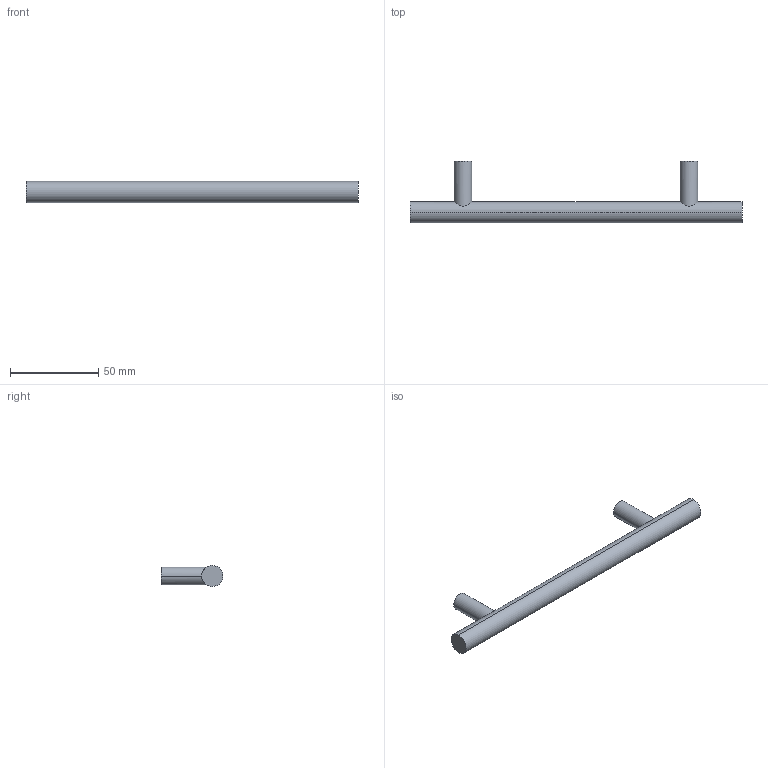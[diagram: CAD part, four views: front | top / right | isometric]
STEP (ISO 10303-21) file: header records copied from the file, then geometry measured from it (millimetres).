
FILE_DESCRIPTION( ( '' ), '1' );
FILE_NAME( 'D:/1.AUTOCAD EXPORT/Group 10/sheet_10_1/9071005.stp', '2013-10-21T08:28:03', ( '' ), ( '' ), ' ', ' ', ' ' );
FILE_SCHEMA( ( 'automotive_design' ) );
Length unit declared in the file: millimetre
Products named in the file (1): 1
Bounding box: 188 x 35 x 12 mm (x, y, z)
Volume: 24664.8 mm3; surface area: 9119 mm2
Topology: 1 solids, 1 shells, 16 faces, 32 edges, 22 vertices
Faces by surface type: cylinder 10, plane 6
Entity records: 972 total; most frequent: CARTESIAN_POINT 205, DIRECTION 76, STYLED_ITEM 71, PRESENTATION_STYLE_ASSIGNMENT 71, COLOUR_RGB 71, ORIENTED_EDGE 64, AXIS2_PLACEMENT_3D 33, EDGE_CURVE 32
